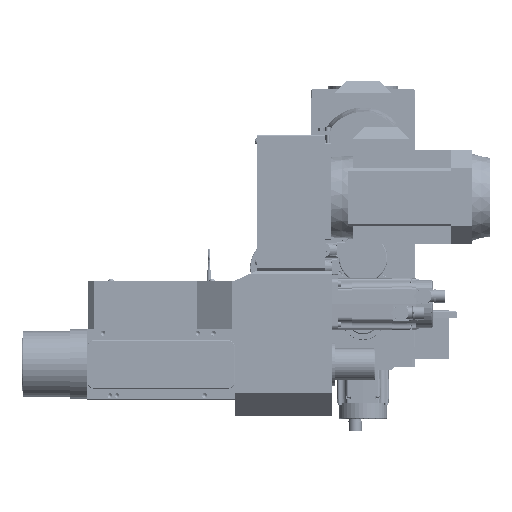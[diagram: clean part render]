
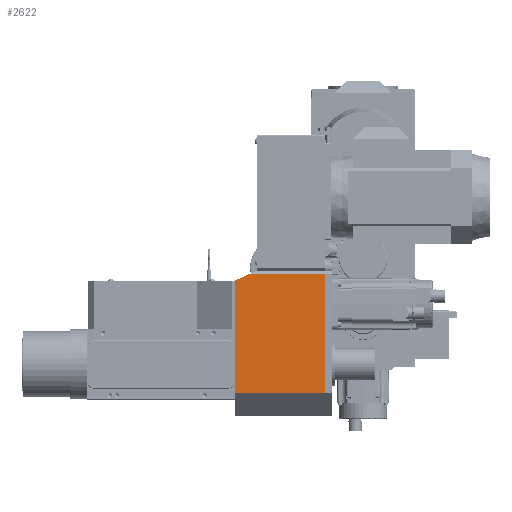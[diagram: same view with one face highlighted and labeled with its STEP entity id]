
A CAD part, front view. The second image highlights one B-rep face of the part: STEP entity #2622.
In plain terms, the highlighted planar face has unit normal (0, -1, 0) as drawn and (-1, 0, 0) by its records, which use the part's own axes.
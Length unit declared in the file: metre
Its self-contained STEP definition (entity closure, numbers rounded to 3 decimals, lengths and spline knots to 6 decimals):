
#2622 = ADVANCED_FACE( '', ( #4675 ), #4676, .F. );
#4675 = FACE_OUTER_BOUND( '', #8475, .T. );
#4676 = PLANE( '', #8476 );
#8475 = EDGE_LOOP( '', ( #14454, #14455, #14456, #14457, #14458 ) );
#8476 = AXIS2_PLACEMENT_3D( '', #14459, #14460, #14461 );
#14454 = ORIENTED_EDGE( '', *, *, #24667, .F. );
#14455 = ORIENTED_EDGE( '', *, *, #24668, .T. );
#14456 = ORIENTED_EDGE( '', *, *, #24669, .T. );
#14457 = ORIENTED_EDGE( '', *, *, #24665, .T. );
#14458 = ORIENTED_EDGE( '', *, *, #24670, .T. );
#14459 = CARTESIAN_POINT( '', ( -0.155, 0.019444, 0.253 ) );
#14460 = DIRECTION( '', ( 1., 0., 0. ) );
#14461 = DIRECTION( '', ( 0., 0., -1. ) );
#24665 = EDGE_CURVE( '', #28413, #28411, #28414, .T. );
#24667 = EDGE_CURVE( '', #28416, #28417, #28418, .T. );
#24668 = EDGE_CURVE( '', #28416, #28419, #28420, .T. );
#24669 = EDGE_CURVE( '', #28419, #28413, #28421, .T. );
#24670 = EDGE_CURVE( '', #28411, #28417, #28422, .T. );
#28411 = VERTEX_POINT( '', #34450 );
#28413 = VERTEX_POINT( '', #34453 );
#28414 = LINE( '', #34454, #34455 );
#28416 = VERTEX_POINT( '', #34458 );
#28417 = VERTEX_POINT( '', #34459 );
#28418 = LINE( '', #34460, #34461 );
#28419 = VERTEX_POINT( '', #34462 );
#28420 = LINE( '', #34463, #34464 );
#28421 = LINE( '', #34465, #34466 );
#28422 = LINE( '', #34467, #34468 );
#34450 = CARTESIAN_POINT( '', ( -0.155, 0.019444, 0.04 ) );
#34453 = CARTESIAN_POINT( '', ( -0.155, 0.019444, 0.236 ) );
#34454 = CARTESIAN_POINT( '', ( -0.155, 0.019444, 0.253 ) );
#34455 = VECTOR( '', #44865, 1. );
#34458 = CARTESIAN_POINT( '', ( -0.155, -0.137056, 0.248 ) );
#34459 = CARTESIAN_POINT( '', ( -0.155, -0.137056, 0.04 ) );
#34460 = CARTESIAN_POINT( '', ( -0.155, -0.137056, 0.253 ) );
#34461 = VECTOR( '', #44867, 1. );
#34462 = CARTESIAN_POINT( '', ( -0.155, -0.007026, 0.248 ) );
#34463 = CARTESIAN_POINT( '', ( -0.155, -0.018056, 0.248 ) );
#34464 = VECTOR( '', #44868, 1. );
#34465 = CARTESIAN_POINT( '', ( -0.155, -0.018056, 0.253 ) );
#34466 = VECTOR( '', #44869, 1. );
#34467 = CARTESIAN_POINT( '', ( -0.155, 0.019444, 0.04 ) );
#34468 = VECTOR( '', #44870, 1. );
#44865 = DIRECTION( '', ( 0., 0., -1. ) );
#44867 = DIRECTION( '', ( 0., 0., -1. ) );
#44868 = DIRECTION( '', ( 0., 1., 0. ) );
#44869 = DIRECTION( '', ( 0., 0.911, -0.413 ) );
#44870 = DIRECTION( '', ( 0., -1., 0. ) );
